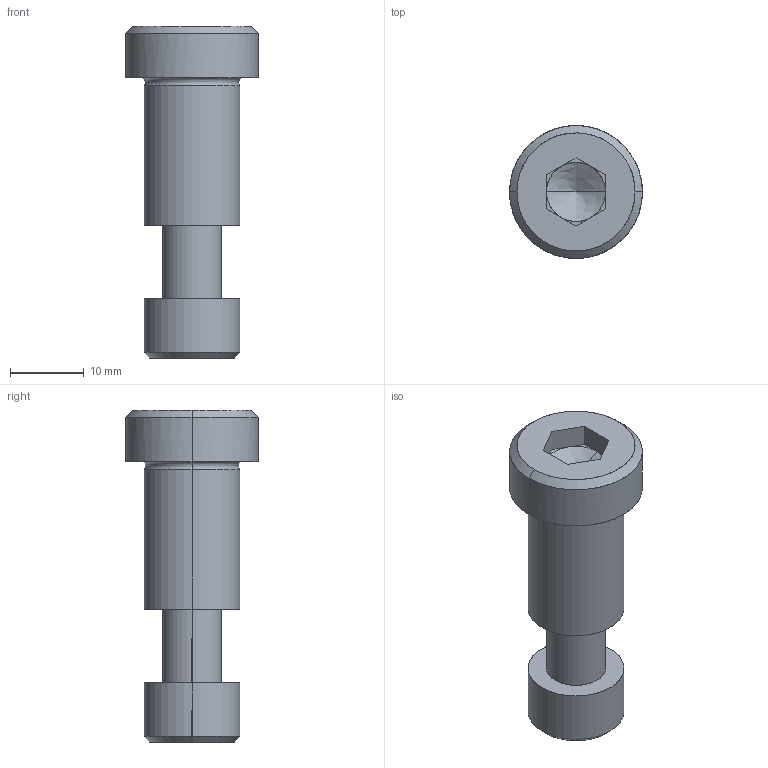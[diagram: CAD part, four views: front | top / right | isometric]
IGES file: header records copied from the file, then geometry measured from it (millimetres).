
Global section: file name: E:\UnigraphicsGraphicData\MISUMI_PRESS-PARTS\IGES\3d_sbtc13-20_05095_r00.igs; native system: NX V5.0; preprocessor: UGS NX IGES V5.0; author: MISUMI; date: 20110105.162444; units: millimetre
Bounding box: 18 x 18 x 45 mm (x, y, z)
Surface area: 3476 mm2 (no closed solid volume)
Topology: 0 solids, 0 shells, 52 faces, 286 edges, 282 vertices
Faces by surface type: bspline 52
